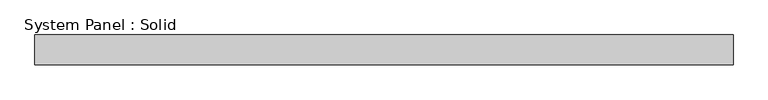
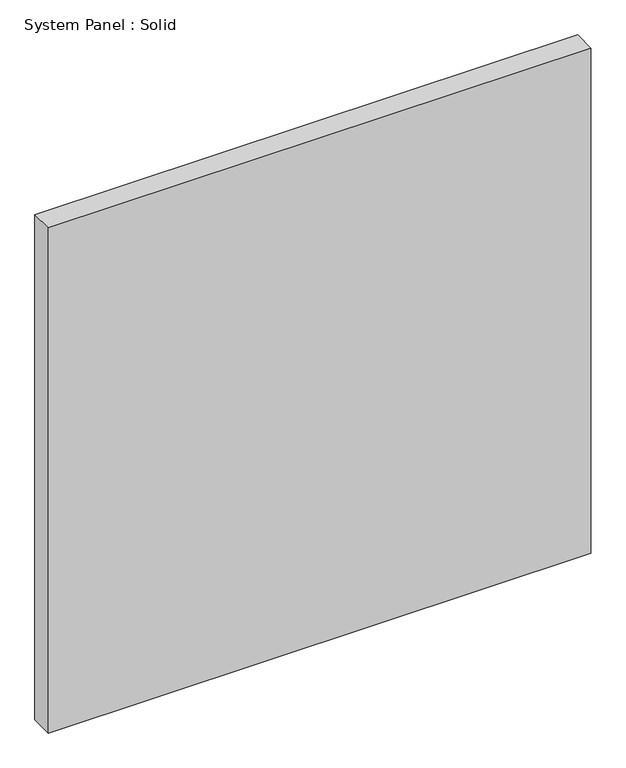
"""IFC4 building model written with IfcOpenShell, lengths in millimetres: plate geometry, System Panel : Solid."""

import ifcopenshell
import ifcopenshell.guid

model = None  # the IFC model being written
_history = None  # IfcOwnerHistory: only IFC2X3 demands one
_inside = {}  # id of a spatial element -> (the spatial element, [elements in it])
_under = {}  # id of a project, library or spatial element -> (it, [spatial elements below it])
_declared = {}  # id of a project -> (the project, [libraries it declares])
_typed = {}  # id of a type object -> (the type object, [elements of that type])
_made_of = {}  # id of a material, layer set ... -> (it, [elements and type objects made of it])


def new_model(schema):
    """Start an empty IFC model of exactly this schema.

    Asked for "IFC4X3", IfcOpenShell would pick the latest addendum, in which some entities
    have other attributes; the version numbers below select the first issue.
    IFC2X3 requires an IfcOwnerHistory on every rooted entity: one is made here for all.
    """
    global model, _history
    if schema == "IFC4X3":
        model = ifcopenshell.file(schema_version=(4, 3, 0, 0))
    else:
        model = ifcopenshell.file(schema=schema)
    _inside.clear()
    _under.clear()
    _declared.clear()
    _typed.clear()
    _made_of.clear()
    _history = None
    if model.schema == "IFC2X3":
        org = make("IfcOrganization", Name="unknown")
        user = make(
            "IfcPersonAndOrganization",
            ThePerson=make("IfcPerson", FamilyName="unknown"),
            TheOrganization=org,
        )
        app = make(
            "IfcApplication",
            ApplicationDeveloper=org,
            Version="unknown",
            ApplicationFullName="unknown",
            ApplicationIdentifier="unknown",
        )
        _history = make(
            "IfcOwnerHistory",
            OwningUser=user,
            OwningApplication=app,
            ChangeAction="ADDED",
            CreationDate=0,
        )
    return model


def make(cls, **values):
    """One entity of the class cls with the attributes given. An attribute that is None is left unset."""
    return model.create_entity(
        cls, **{name: value for name, value in values.items() if value is not None}
    )


def rooted(cls, **values):
    """An entity with a GlobalId (a new one), such as an element, a storey or a relation."""
    return make(cls, GlobalId=ifcopenshell.guid.new(), OwnerHistory=_history, **values)


def si_unit(unit_type, name, prefix=None):
    """IfcSIUnit, for example si_unit("LENGTHUNIT", "METRE", prefix="MILLI")."""
    return make("IfcSIUnit", UnitType=unit_type, Prefix=prefix, Name=name)


def assignment(units):
    """IfcUnitAssignment: the units of a project."""
    return None if units is None else make("IfcUnitAssignment", Units=units)


def point(xyz):
    """IfcCartesianPoint."""
    return None if xyz is None else make("IfcCartesianPoint", Coordinates=xyz)


def direction(xyz):
    """IfcDirection."""
    return None if xyz is None else make("IfcDirection", DirectionRatios=xyz)


def frame(location, z_axis=None, x_axis=None):
    """IfcAxis2Placement3D, a coordinate frame: its origin and axes. An axis left out is left unset."""
    return make(
        "IfcAxis2Placement3D",
        Location=point(location),
        Axis=direction(z_axis),
        RefDirection=direction(x_axis),
    )


def origin():
    """The frame at (0, 0, 0) with its axes left unset."""
    return frame((0.0, 0.0, 0.0))


def origin_with_axes():
    """The frame at (0, 0, 0) with the z axis (0, 0, 1) and the x axis (1, 0, 0) written out."""
    return frame((0.0, 0.0, 0.0), z_axis=(0.0, 0.0, 1.0), x_axis=(1.0, 0.0, 0.0))


def place(relative_to, where):
    """IfcLocalPlacement: puts the frame where relative to a parent placement (None: the world)."""
    return make(
        "IfcLocalPlacement", PlacementRelTo=relative_to, RelativePlacement=where
    )


def context(
    kind, dimensions, precision=None, world=None, true_north=None, identifier=None
):
    """IfcGeometricRepresentationContext, for example the 3D "Model" context."""
    return make(
        "IfcGeometricRepresentationContext",
        ContextIdentifier=identifier,
        ContextType=kind,
        CoordinateSpaceDimension=dimensions,
        Precision=precision,
        WorldCoordinateSystem=world,
        TrueNorth=true_north,
    )


def project(units=None, contexts=None):
    """IfcProject with its units and contexts."""
    return rooted(
        "IfcProject",
        Name="project",
        RepresentationContexts=contexts,
        UnitsInContext=assignment(units),
    )


def spatial(cls, under=None, at=None, **own):
    """A site, building, storey or space (cls), placed at a placement, below another one or the project."""
    s = rooted(cls, ObjectPlacement=at, **own)
    if under is not None:
        _under.setdefault(under.id(), (under, []))[1].append(s)
    return s


def polyline(points):
    """IfcPolyline through the points."""
    return make("IfcPolyline", Points=[point(p) for p in points])


def outline(outer, holes=None, kind="AREA"):
    """IfcArbitraryClosedProfileDef: a profile drawn as a closed curve; with holes, ...WithVoids."""
    if holes is None:
        return make("IfcArbitraryClosedProfileDef", ProfileType=kind, OuterCurve=outer)
    return make(
        "IfcArbitraryProfileDefWithVoids",
        ProfileType=kind,
        OuterCurve=outer,
        InnerCurves=holes,
    )


def extrude(swept, where, along, depth):
    """IfcExtrudedAreaSolid: the profile swept, set in the frame where, extruded along a direction by depth."""
    return make(
        "IfcExtrudedAreaSolid",
        SweptArea=swept,
        Position=where,
        ExtrudedDirection=direction(along),
        Depth=depth,
    )


def shape(context_of_items, identifier, shape_type, items):
    """IfcShapeRepresentation: the items that make up one representation, for example the "Body"."""
    return make(
        "IfcShapeRepresentation",
        ContextOfItems=context_of_items,
        RepresentationIdentifier=identifier,
        RepresentationType=shape_type,
        Items=items,
    )


def source(mapping_origin, context_of_items, identifier, shape_type, items):
    """IfcRepresentationMap: a shape defined once, which mapped items show again and again."""
    return make(
        "IfcRepresentationMap",
        MappingOrigin=mapping_origin,
        MappedRepresentation=shape(context_of_items, identifier, shape_type, items),
    )


def transform(
    local_origin,
    x_axis=None,
    y_axis=None,
    z_axis=None,
    scale=None,
    scale2=None,
    scale3=None,
    uniform=True,
):
    """IfcCartesianTransformationOperator3D, or its non-uniform kind. x_axis, y_axis, z_axis: its Axis1, 2, 3."""
    if uniform:
        return make(
            "IfcCartesianTransformationOperator3D",
            Axis1=direction(x_axis),
            Axis2=direction(y_axis),
            LocalOrigin=point(local_origin),
            Scale=scale,
            Axis3=direction(z_axis),
        )
    return make(
        "IfcCartesianTransformationOperator3DnonUniform",
        Axis1=direction(x_axis),
        Axis2=direction(y_axis),
        LocalOrigin=point(local_origin),
        Scale=scale,
        Axis3=direction(z_axis),
        Scale2=scale2,
        Scale3=scale3,
    )


def mapped(mapping_source, mapping_target):
    """IfcMappedItem: shows the shape of a source again, moved by a transform."""
    return make(
        "IfcMappedItem", MappingSource=mapping_source, MappingTarget=mapping_target
    )


def made_of(thing, what):
    """Note that an element or type object is made of a material, layer set ...; save() writes the relation."""
    if what is not None:
        _made_of.setdefault(what.id(), (what, []))[1].append(thing)
    return thing


def element(
    cls,
    number,
    at=None,
    inside=None,
    cuts=None,
    type_object=None,
    material=None,
    context=None,
    identifier="Body",
    shape_type=None,
    held_by="IfcProductDefinitionShape",
    body=None,
    shapes=None,
    **own,
):
    """One element of the class cls, such as IfcWall. Its Tag is "e" and its number.

    at: its placement. inside: the storey or other place that contains it. cuts: it is an
    opening in that element (IfcRelVoidsElement). A single representation is given by context,
    identifier, shape_type and body (its items); several are given by shapes. held_by: the class
    of the entity that holds the representations. save() writes the other relations.
    """
    e = rooted(cls, Tag="e%d" % number, ObjectPlacement=at, **own)
    if body is not None:
        shapes = [shape(context, identifier, shape_type, body)]
    if shapes is not None:
        e.Representation = make(held_by, Representations=shapes)
    if inside is not None:
        _inside.setdefault(inside.id(), (inside, []))[1].append(e)
    if cuts is not None:
        rooted(
            "IfcRelVoidsElement", RelatingBuildingElement=cuts, RelatedOpeningElement=e
        )
    if type_object is not None:
        _typed.setdefault(type_object.id(), (type_object, []))[1].append(e)
    return made_of(e, material)


def aggregate(whole, parts):
    """IfcRelAggregates: a whole, such as a stair, and the parts it consists of."""
    return rooted("IfcRelAggregates", RelatingObject=whole, RelatedObjects=parts)


def save(model, path):
    """Write the relations noted so far, then the file.

    IfcRelAggregates (storeys below a building ...), IfcRelContainedInSpatialStructure (elements
    in a storey), IfcRelDefinesByType, IfcRelAssociatesMaterial and IfcRelDeclares: one each for
    every whole, place, type object, material and project.
    """
    for whole, parts in _under.values():
        aggregate(whole, parts)
    for where, things in _inside.values():
        rooted(
            "IfcRelContainedInSpatialStructure",
            RelatedElements=things,
            RelatingStructure=where,
        )
    for kind, things in _typed.values():
        rooted("IfcRelDefinesByType", RelatedObjects=things, RelatingType=kind)
    for what, things in _made_of.values():
        rooted("IfcRelAssociatesMaterial", RelatedObjects=things, RelatingMaterial=what)
    for by, libraries in _declared.values():
        rooted("IfcRelDeclares", RelatingContext=by, RelatedDefinitions=libraries)
    model.write(path)


def system_panel_solid_cb9a7247(model_context):
    return source(origin(), model_context, "Body", "SweptSolid", [
        extrude(outline(polyline([(742.95, -19.05), (-742.95, -19.05), (-742.95, 44.45), (742.95, 44.45), (742.95, -19.05)])), origin_with_axes(), (0.0, 0.0, 1.0), 1462.6166667),
    ])


if __name__ == "__main__":
    model = new_model("IFC4")
    model_context = context("Model", 3, world=origin())
    ifc_project = project(units=[si_unit("LENGTHUNIT", "METRE", prefix="MILLI")], contexts=[model_context])
    site = spatial("IfcSite", under=ifc_project)
    building = spatial("IfcBuilding", under=site)
    placement = place(None, origin())
    system_panel_solid_shape = system_panel_solid_cb9a7247(model_context)
    element("IfcPlate", 1, ObjectType="System Panel : Solid", at=placement, inside=building, context=model_context, shape_type="MappedRepresentation", body=[
        mapped(system_panel_solid_shape, transform((0.0, 0.0, 0.0), x_axis=(1.0, 0.0, 0.0), y_axis=(0.0, 1.0, 0.0), z_axis=(0.0, 0.0, 1.0))),
    ])
    save(model, "model.ifc")
